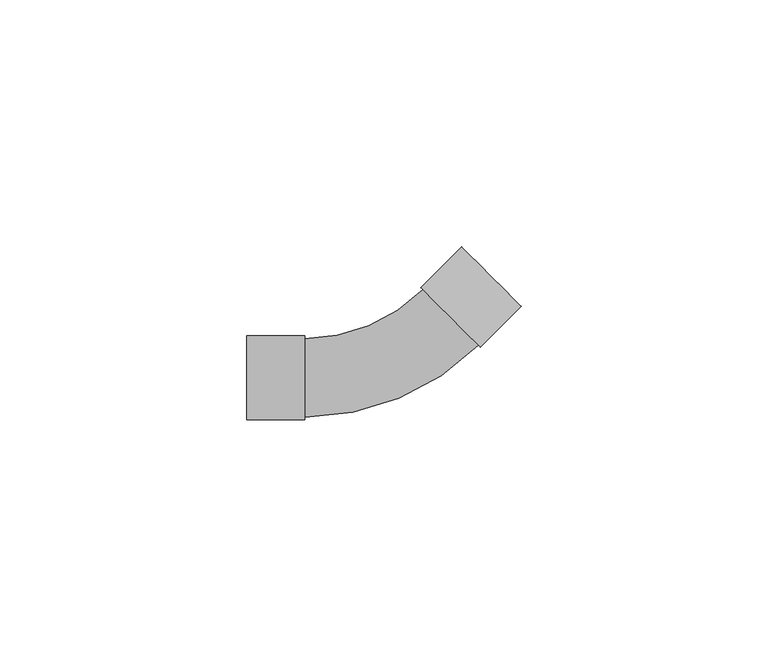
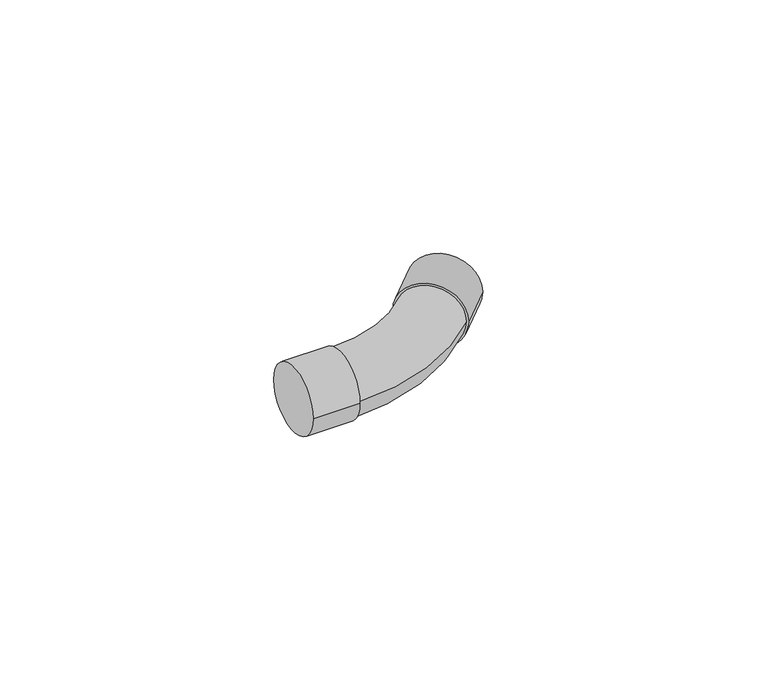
"""IFC4 building model written with IfcOpenShell, lengths in millimetres: pipe fitting geometry, Cotovelo - Soldado - CU : Padrão."""

from ifc_helpers import new_model, si_unit, point, frame, origin, place, context, project, spatial, circle_curve, ellipse_curve, trimmed, source, transform, mapped, element, save
from ifc_brep_helpers import plane_surface, cylinder_surface, revolved_surface, advanced_brep


def pipe_fitting_9306bac7(model_context):
    return source(origin(), model_context, "Body", "AdvancedBrep", [
        advanced_brep(
        [(6.6359435, 17.8577851, 0.0), (-17.3197, 7.935, 0.0), (-17.3197, -7.935, 0.0), (17.8577542, 6.6360265, 0.0), (-28.9786, -8.4937, 0.0), (-28.9786, 8.4937, 0.0), (-17.3197, -8.4937, 0.0), (-17.3197, 8.4937, 0.0), (14.4849501, 26.4969511, 0.0), (26.4968838, 14.4850733, 0.0), (6.240882, 18.2528447, 0.0), (18.2528157, 6.2409669, 0.0)],
        [
            (0, 1, circle_curve(frame((-17.3197, 41.8133171, 0.0), z_axis=(0.0, 0.0, -1.0), x_axis=(0.0, -1.0, 0.0)), 33.8783171)),
            (1, 2, circle_curve(frame((-17.3197, 0.0, 0.0), z_axis=(1.0, 0.0, 0.0), x_axis=(0.0, 1.0, 0.0)), 7.935)),
            (2, 3, circle_curve(frame((-17.3197, 41.8133171, 0.0), z_axis=(0.0, 0.0, 1.0), x_axis=(0.0, -1.0, 0.0)), 49.7483171)),
            (3, 0, circle_curve(frame((12.2468488, 12.2469058, 0.0), z_axis=(-0.7071051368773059, -0.7071084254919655, 0.0), x_axis=(-0.7071084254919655, 0.7071051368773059, 0.0)), 7.935)),
            (0, 3, circle_curve(frame((12.2468488, 12.2469058, 0.0), z_axis=(-0.7071051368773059, -0.7071084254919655, 0.0), x_axis=(-0.7071084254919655, 0.7071051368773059, 0.0)), 7.935)),
            (2, 1, circle_curve(frame((-17.3197, 0.0, 0.0), z_axis=(1.0, 0.0, 0.0), x_axis=(0.0, 1.0, 0.0)), 7.935)),
            (4, 5, circle_curve(frame((-28.9786, 0.0, 0.0), z_axis=(-1.0, 0.0, 0.0), x_axis=(0.0, 1.0, 0.0)), 8.4937)),
            (5, 4, circle_curve(frame((-28.9786, 0.0, 0.0), z_axis=(-1.0, 0.0, 0.0), x_axis=(0.0, 1.0, 0.0)), 8.4937)),
            (6, 7, circle_curve(frame((-17.3197, 0.0, 0.0), z_axis=(1.0, 0.0, 0.0), x_axis=(0.0, 1.0, 0.0)), 8.4937)),
            (7, 6, circle_curve(frame((-17.3197, 0.0, 0.0), z_axis=(1.0, 0.0, 0.0), x_axis=(0.0, 1.0, 0.0)), 8.4937)),
            (4, 6),
            (7, 5),
            (8, 9, circle_curve(frame((20.4909169, 20.4910122, 0.0), z_axis=(0.7071051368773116, 0.7071084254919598, 0.0), x_axis=(0.7071084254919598, -0.7071051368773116, 0.0)), 8.4937)),
            (9, 8, circle_curve(frame((20.4909169, 20.4910122, 0.0), z_axis=(0.7071051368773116, 0.7071084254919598, 0.0), x_axis=(0.7071084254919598, -0.7071051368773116, 0.0)), 8.4937)),
            (10, 11, circle_curve(frame((12.2468488, 12.2469058, 0.0), z_axis=(-0.7071051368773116, -0.7071084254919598, 0.0), x_axis=(0.7071084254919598, -0.7071051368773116, 0.0)), 8.4937)),
            (11, 10, circle_curve(frame((12.2468488, 12.2469058, 0.0), z_axis=(-0.7071051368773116, -0.7071084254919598, 0.0), x_axis=(0.7071084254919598, -0.7071051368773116, 0.0)), 8.4937)),
            (8, 10),
            (11, 9),
        ],
        [
            revolved_surface(trimmed(ellipse_curve(frame((-17.3197, 0.0, 0.0), z_axis=(-1.0, 0.0, 0.0), x_axis=(0.0, 1.0, 0.0)), 7.935, 7.935), [point((-17.3197, -7.935, 0.0))], [point((-17.3197, 7.935, 0.0))], True, "CARTESIAN"), (-17.3197, 41.8133171, 0.0), (0.0, 0.0, 1.0)),
            revolved_surface(trimmed(ellipse_curve(frame((-17.3197, 0.0, 0.0), z_axis=(-1.0, 0.0, 0.0), x_axis=(0.0, 1.0, 0.0)), 7.935, 7.935), [point((-17.3197, 7.935, 0.0))], [point((-17.3197, -7.935, 0.0))], True, "CARTESIAN"), (-17.3197, 41.8133171, 0.0), (0.0, 0.0, 1.0)),
            plane_surface(frame((-28.9786, 0.0, 0.0), z_axis=(-1.0, 0.0, 0.0), x_axis=(0.0, 0.0, 1.0))),
            plane_surface(frame((-17.3197, 0.0, 0.0), z_axis=(1.0, 0.0, 0.0), x_axis=(0.0, 0.0, 1.0))),
            cylinder_surface(frame((-28.9786, 0.0, 0.0), z_axis=(-1.0, 0.0, 0.0), x_axis=(0.0, 1.0, 0.0)), 8.4937),
            plane_surface(frame((20.4909169, 20.4910122, 0.0), z_axis=(0.7071051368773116, 0.7071084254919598, 0.0), x_axis=(0.0, 0.0, 1.0))),
            plane_surface(frame((12.2468488, 12.2469058, 0.0), z_axis=(-0.7071051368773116, -0.7071084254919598, 0.0), x_axis=(0.0, 0.0, 1.0))),
            cylinder_surface(frame((20.4909169, 20.4910122, 0.0), z_axis=(0.7071051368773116, 0.7071084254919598, 0.0), x_axis=(0.7071084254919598, -0.7071051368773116, 0.0)), 8.4937),
        ],
        [
            (0, [[1, 2, 3, 4]]),
            (1, [[-1, 5, -3, 6]]),
            (2, [[7, 8]]),
            (3, [[9, 10], [-2, -6]]),
            (4, [[-7, 11, -10, 12]]),
            (4, [[-8, -12, -9, -11]]),
            (5, [[13, 14]]),
            (6, [[15, 16], [-4, -5]]),
            (7, [[-13, 17, -16, 18]]),
            (7, [[-14, -18, -15, -17]]),
        ],
    ),
    ])


if __name__ == "__main__":
    model = new_model("IFC4")
    model_context = context("Model", 3, world=origin())
    ifc_project = project(units=[si_unit("LENGTHUNIT", "METRE", prefix="MILLI")], contexts=[model_context])
    site = spatial("IfcSite", under=ifc_project)
    building = spatial("IfcBuilding", under=site)
    placement = place(None, origin())
    pipe_fitting_shape = pipe_fitting_9306bac7(model_context)
    element("IfcPipeFitting", 1, ObjectType="Cotovelo - Soldado - CU : Padrão", at=placement, inside=building, context=model_context, shape_type="MappedRepresentation", body=[
        mapped(pipe_fitting_shape, transform((0.0, 0.0, 0.0), x_axis=(1.0, 0.0, 0.0), y_axis=(0.0, 1.0, 0.0), z_axis=(0.0, 0.0, 1.0))),
    ])
    save(model, "model.ifc")
